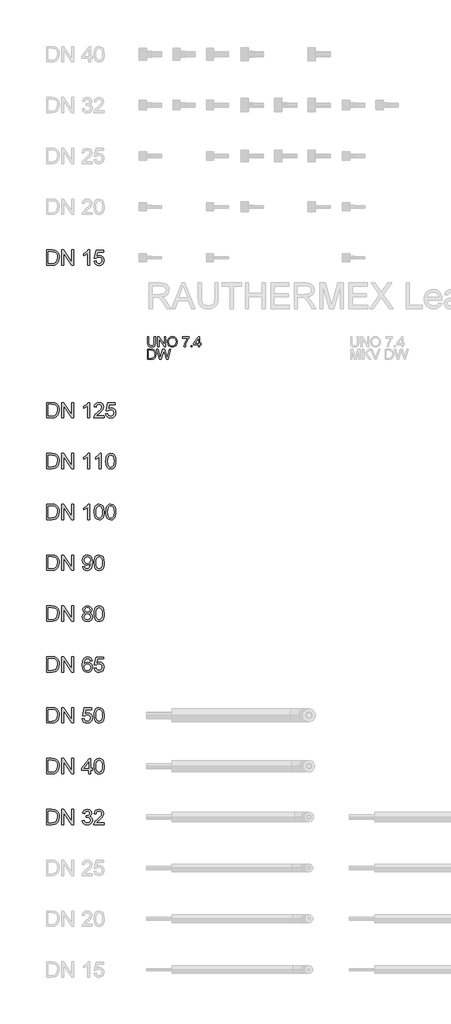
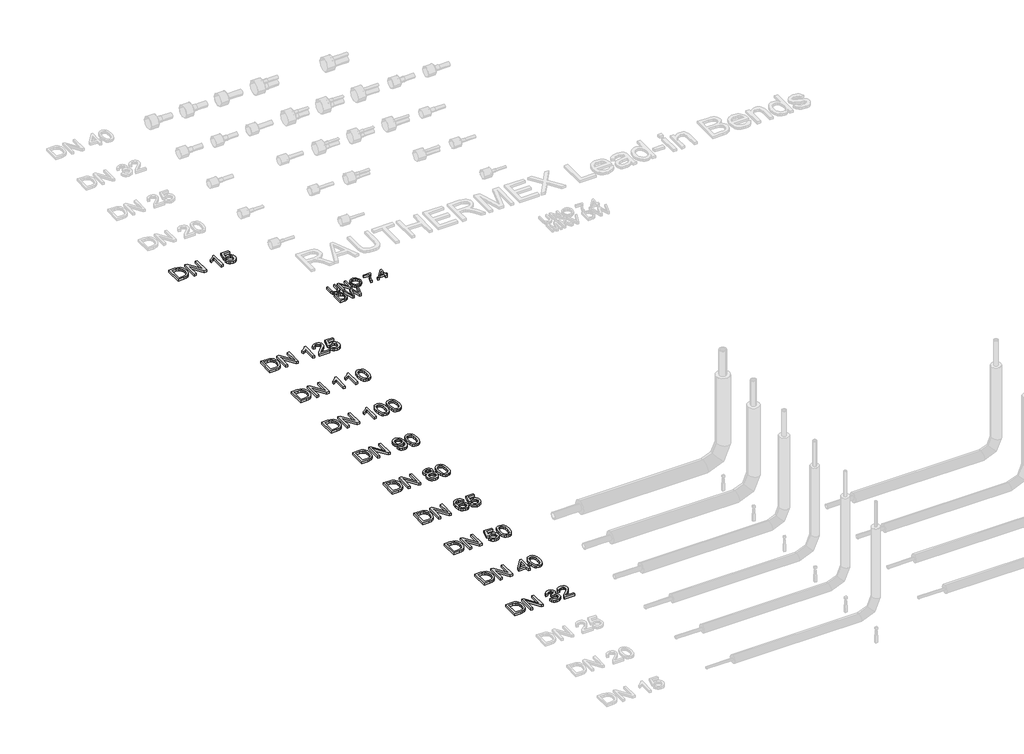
# One storey, part 9 of 44: 11 proxies.
"""IFC4 building model written with IfcOpenShell, lengths in millimetres."""

from ifc_helpers import new_model, si_unit, origin, origin_with_axes, place, context, project, spatial, polyline, outline, extrude, element, save

model = new_model("IFC4")

# Units and contexts
model_context = context("Model", 3, world=origin())
ifc_project = project(units=[si_unit("LENGTHUNIT", "METRE", prefix="MILLI")], contexts=[model_context])

# Site, building, storey
site = spatial("IfcSite", under=ifc_project)
building = spatial("IfcBuilding", under=site)
storey = spatial("IfcBuildingStorey", under=building, Name="REHAU Starting view", Elevation=0.0)

# Proxies
placement = place(None, origin())
element("IfcBuildingElementProxy", 1, Name="100", ObjectType="100", at=placement, inside=storey, context=model_context, shape_type="SweptSolid", body=[
    extrude(outline(polyline([(1076.9118625, 6222.431128), (1089.4689012, 6222.431128), (1089.4689012, 6164.477451), (1086.0598614, 6140.4547567), (1073.7726028, 6125.9847316), (1063.5086951, 6121.8000739), (1050.4734097, 6120.405188), (1027.529836, 6125.2612303), (1019.8901532, 6131.2055902), (1014.8011189, 6139.3265853), (1010.9874089, 6164.477451), (1010.9874089, 6222.431128), (1023.5444477, 6222.431128), (1023.5444477, 6164.9189094), (1026.0215198, 6145.7767829), (1034.5318566, 6136.2976902), (1049.2961874, 6132.9622268), (1062.067824, 6134.6115644), (1070.5597667, 6139.5595772), (1075.3238385, 6149.1980855), (1076.9118625, 6164.9189094), (1076.9118625, 6222.431128)])), origin_with_axes(), (0.0, 0.0, 1.0), 20.0),
    extrude(outline(polyline([(1111.4437191, 6121.9748178), (1111.4437191, 6222.431128), (1124.8836746, 6222.431128), (1177.3681726, 6142.8459897), (1177.3681726, 6222.431128), (1189.9252114, 6222.431128), (1189.9252114, 6121.9748178), (1176.4852558, 6121.9748178), (1124.0007578, 6201.5844816), (1124.0007578, 6121.9748178), (1111.4437191, 6121.9748178)])), origin_with_axes(), (0.0, 0.0, 1.0), 20.0),
    extrude(outline(polyline([(1207.1911397, 6170.8785977), (1210.5388658, 6193.0925389), (1220.5820443, 6209.8986147), (1235.9165921, 6220.4752221), (1255.1384264, 6224.0007578), (1268.3147332, 6222.3452889), (1280.1298766, 6217.3788819), (1289.9400631, 6209.4510249), (1297.1014993, 6198.9112058), (1301.479295, 6186.2683279), (1302.9385603, 6172.0312947), (1301.402653, 6157.6041891), (1296.794931, 6144.7835015), (1289.369846, 6134.2252883), (1279.3818499, 6126.5856055), (1267.667874, 6121.9502924), (1255.06485, 6120.405188), (1241.6862081, 6122.1127736), (1229.8036197, 6127.2355304), (1220.0179586, 6135.3105402), (1212.9300988, 6145.8748848), (1207.1911397, 6170.8785977)]), holes=[polyline([(1219.7481785, 6170.7559704), (1222.2589731, 6155.0412778), (1229.7913569, 6143.0667189), (1241.1129253, 6135.4883498), (1254.9912736, 6132.9622268), (1269.071957, 6135.5128753), (1280.4119195, 6143.1648208), (1287.889121, 6155.5072617), (1290.3815215, 6172.1293965), (1286.1140904, 6192.8534156), (1273.6428907, 6206.575414), (1255.2120028, 6211.4437191), (1241.7046022, 6209.0984714), (1230.2205526, 6202.0627282), (1222.366272, 6189.5455433), (1219.7481785, 6170.7559704)])]), origin_with_axes(), (0.0, 0.0, 1.0), 20.0),
    extrude(outline(polyline([(1354.7363452, 6208.3044594), (1354.7363452, 6220.8614981), (1420.6607988, 6220.8614981), (1420.6607988, 6210.7079551), (1401.9601307, 6183.6931539), (1387.6495211, 6149.2716619), (1382.9896824, 6121.9748178), (1370.4326437, 6121.9748178), (1375.4235761, 6150.3017315), (1389.121049, 6182.3197278), (1408.10376, 6208.3044594), (1354.7363452, 6208.3044594)])), origin_with_axes(), (0.0, 0.0, 1.0), 20.0),
    extrude(outline(polyline([(1437.9267271, 6121.9748178), (1437.9267271, 6134.5318566), (1450.4837658, 6134.5318566), (1450.4837658, 6121.9748178), (1437.9267271, 6121.9748178)])), origin_with_axes(), (0.0, 0.0, 1.0), 20.0),
    extrude(outline(polyline([(1511.6993298, 6121.9748178), (1511.6993298, 6145.5192655), (1466.1800643, 6145.5192655), (1466.1800643, 6158.0763043), (1514.8385895, 6220.8614981), (1524.2563686, 6220.8614981), (1524.2563686, 6158.0763043), (1536.8134074, 6158.0763043), (1536.8134074, 6145.5192655), (1524.2563686, 6145.5192655), (1524.2563686, 6121.9748178), (1511.6993298, 6121.9748178)]), holes=[polyline([(1511.6993298, 6158.0763043), (1511.6993298, 6196.8755921), (1481.6311081, 6158.0763043), (1511.6993298, 6158.0763043)])]), origin_with_axes(), (0.0, 0.0, 1.0), 20.0),
    extrude(outline(polyline([(1010.9874089, 6000.0), (1010.9874089, 6100.4563101), (1045.6418929, 6100.4563101), (1063.5700088, 6099.0093076), (1078.3343395, 6091.823346), (1090.2291907, 6074.6555196), (1094.1777908, 6050.7677153), (1091.5045149, 6030.4974174), (1084.6373844, 6015.8679767), (1075.4648599, 6006.756766), (1063.4596442, 6001.7167826), (1047.3096246, 6000.0), (1010.9874089, 6000.0)]), holes=[polyline([(1023.5444477, 6012.5570388), (1045.7645202, 6012.5570388), (1061.9268025, 6014.3719233), (1071.2464797, 6019.4977457), (1078.8861625, 6031.9689454), (1081.620752, 6050.9639191), (1080.2810484, 6064.6491293), (1076.2619376, 6074.7536214), (1063.2266522, 6085.8881831), (1045.4211637, 6087.8992714), (1023.5444477, 6087.8992714), (1023.5444477, 6012.5570388)])]), origin_with_axes(), (0.0, 0.0, 1.0), 20.0),
    extrude(outline(polyline([(1129.4208859, 6000.0), (1102.02594, 6100.4563101), (1114.9753862, 6100.4563101), (1130.8678884, 6034.4337547), (1135.7729817, 6014.0530922), (1141.0214315, 6032.07931), (1160.9361102, 6100.4563101), (1179.59999, 6100.4563101), (1194.0700152, 6050.8903427), (1204.8366949, 6014.0530922), (1209.5946354, 6033.8451436), (1225.6342904, 6100.4563101), (1238.5837366, 6100.4563101), (1211.1642652, 6000.0), (1197.7488351, 6000.0), (1173.6648272, 6077.5004737), (1170.3048383, 6088.3162043), (1166.5279165, 6075.2931817), (1144.5776241, 6000.0), (1129.4208859, 6000.0)])), origin_with_axes(), (0.0, 0.0, 1.0), 20.0),
])
element("IfcBuildingElementProxy", 2, Name="150", ObjectType="150", at=placement, inside=storey, context=model_context, shape_type="SweptSolid", body=[
    extrude(outline(polyline([(16.4811134, 6925.0), (16.4811134, 7075.6844652), (68.4628393, 7075.6844652), (95.3550131, 7073.5139615), (117.5015093, 7062.735019), (127.9217668, 7051.2571007), (135.343786, 7036.9832793), (139.7859611, 7020.1894663), (141.2666861, 7001.151573), (137.2567724, 6970.7461261), (126.9560765, 6948.8019651), (113.1972899, 6935.135149), (95.1894663, 6927.575174), (70.9644369, 6925.0), (16.4811134, 6925.0)]), holes=[polyline([(35.3166715, 6943.8355582), (68.6467803, 6943.8355582), (92.8902038, 6946.5578849), (106.8697196, 6954.2466186), (118.3292437, 6972.9534181), (122.431128, 7001.4458786), (120.4215726, 7021.9736939), (114.3929064, 7037.1304321), (105.4855636, 7047.5414926), (94.8399784, 7053.8322747), (68.1317455, 7056.8489071), (35.3166715, 7056.8489071), (35.3166715, 6943.8355582)])]), origin_with_axes(), (0.0, 0.0, 1.0), 20.0),
    extrude(outline(polyline([(167.1655786, 6925.0), (167.1655786, 7075.6844652), (187.3255119, 7075.6844652), (266.0522589, 6956.3067578), (266.0522589, 7075.6844652), (284.8878171, 7075.6844652), (284.8878171, 6925.0), (264.7278837, 6925.0), (186.0011368, 7044.4144956), (186.0011368, 6925.0), (167.1655786, 6925.0)])), origin_with_axes(), (0.0, 0.0, 1.0), 20.0),
    extrude(outline(polyline([(440.2811718, 6925.0), (421.4456137, 6925.0), (421.4456137, 7042.4279329), (403.6033369, 7029.7176099), (383.7744974, 7020.2078604), (383.7744974, 7038.0133489), (411.3840411, 7055.6348965), (428.141066, 7075.6844652), (440.2811718, 7075.6844652), (440.2811718, 6925.0)])), origin_with_axes(), (0.0, 0.0, 1.0), 20.0),
    extrude(outline(polyline([(485.0156224, 6965.0255611), (503.8511806, 6967.3800058), (507.3092713, 6956.072233), (513.3425361, 6947.9742306), (521.9233836, 6943.1043927), (533.0242228, 6941.4811134), (546.525492, 6943.7389891), (556.6422469, 6950.5126164), (562.9606202, 6961.0202459), (565.0667446, 6974.4801284), (563.0939774, 6987.1536631), (557.1756758, 6996.8473537), (547.2658545, 7003.00018), (533.3185284, 7005.0511222), (516.7822327, 7001.7769724), (506.2056254, 6993.2788983), (487.3700672, 6995.6333431), (503.8511806, 7073.3300205), (576.8389684, 7073.3300205), (576.8389684, 7054.4944623), (519.0814952, 7054.4944623), (511.0248795, 7012.9973732), (524.4801635, 7021.1643535), (538.5792409, 7023.8866803), (556.1777959, 7020.511363), (570.7873096, 7010.3854111), (580.6235545, 6994.9527614), (583.9023027, 6975.6573507), (580.9500497, 6956.8217926), (572.0932907, 6940.7085612), (555.1339307, 6927.1613067), (532.9506464, 6922.6455552), (514.4507806, 6925.5472245), (499.7125081, 6934.2522322), (489.6095489, 6947.7489029), (485.0156224, 6965.0255611)])), origin_with_axes(), (0.0, 0.0, 1.0), 20.0),
])
element("IfcBuildingElementProxy", 3, Name="150", ObjectType="150", at=placement, inside=storey, context=model_context, shape_type="SweptSolid", body=[
    extrude(outline(polyline([(16.4811134, 1425.0), (16.4811134, 1575.6844652), (68.4628393, 1575.6844652), (95.3550131, 1573.5139615), (117.5015093, 1562.735019), (127.9217668, 1551.2571007), (135.343786, 1536.9832793), (139.7859611, 1520.1894663), (141.2666861, 1501.151573), (137.2567724, 1470.7461261), (126.9560765, 1448.8019651), (113.1972899, 1435.135149), (95.1894663, 1427.575174), (70.9644369, 1425.0), (16.4811134, 1425.0)]), holes=[polyline([(35.3166715, 1443.8355582), (68.6467803, 1443.8355582), (92.8902038, 1446.5578849), (106.8697196, 1454.2466186), (118.3292437, 1472.9534181), (122.431128, 1501.4458786), (120.4215726, 1521.9736939), (114.3929064, 1537.1304321), (105.4855636, 1547.5414926), (94.8399784, 1553.8322747), (68.1317455, 1556.8489071), (35.3166715, 1556.8489071), (35.3166715, 1443.8355582)])]), origin_with_axes(), (0.0, 0.0, 1.0), 20.0),
    extrude(outline(polyline([(167.1655786, 1425.0), (167.1655786, 1575.6844652), (187.3255119, 1575.6844652), (266.0522589, 1456.3067578), (266.0522589, 1575.6844652), (284.8878171, 1575.6844652), (284.8878171, 1425.0), (264.7278837, 1425.0), (186.0011368, 1544.4144956), (186.0011368, 1425.0), (167.1655786, 1425.0)])), origin_with_axes(), (0.0, 0.0, 1.0), 20.0),
    extrude(outline(polyline([(369.6478288, 1465.0255611), (388.4833869, 1467.3800058), (392.7002343, 1455.5434026), (398.8760533, 1447.5511663), (407.3143465, 1442.9986266), (418.3186167, 1441.4811134), (431.2312747, 1443.5688437), (441.2008768, 1449.8320347), (447.5744324, 1459.1762374), (449.6989509, 1470.5070028), (447.5928265, 1481.2629526), (441.2744532, 1489.9863544), (431.7095213, 1495.7667003), (419.8637211, 1497.6934822), (406.6567575, 1495.6333431), (408.7536848, 1514.4689012), (411.7703172, 1514.248172), (433.1442611, 1519.6560374), (440.2627777, 1526.5170366), (442.6356166, 1536.2843035), (440.9157683, 1544.4190942), (435.7562233, 1551.0179774), (427.8835486, 1555.3911747), (418.0243111, 1556.8489071), (408.1466795, 1555.3773791), (400.0716698, 1550.9627951), (394.1763608, 1543.6051552), (390.8378317, 1533.3044594), (372.0022735, 1535.6589041), (377.5480946, 1552.5722789), (387.4165291, 1565.1998284), (400.9177983, 1573.063306), (417.3621235, 1575.6844652), (440.0788367, 1570.5157232), (455.9713389, 1556.3890546), (461.4711747, 1537.3879495), (456.2472504, 1520.0239194), (440.7962066, 1507.5527197), (452.5868246, 1502.7886479), (461.324022, 1494.6768499), (466.7318873, 1483.6587841), (468.5345091, 1470.175909), (464.9292655, 1451.8185974), (454.1135348, 1436.4779182), (437.7887713, 1426.103646), (417.6564291, 1422.6455552), (399.4462704, 1425.5978082), (384.620626, 1434.4545673), (374.310733, 1448.0018217), (369.6478288, 1465.0255611)])), origin_with_axes(), (0.0, 0.0, 1.0), 20.0),
    extrude(outline(polyline([(581.547858, 1443.8355582), (581.547858, 1425.0), (482.6611777, 1425.0), (484.6845286, 1437.9862344), (496.1256587, 1457.9806209), (519.7068946, 1479.8144173), (552.227663, 1511.1947515), (558.325307, 1522.0104821), (560.3578551, 1532.5319072), (558.4402702, 1541.9634818), (552.6875155, 1549.8039669), (543.844552, 1555.087672), (532.6563408, 1556.8489071), (520.9071096, 1555.1290587), (511.7790376, 1549.9695138), (505.8883271, 1541.7749423), (503.8511806, 1530.9500146), (485.0156224, 1533.3044594), (489.5819577, 1551.5238152), (499.4549908, 1564.8319464), (514.1196868, 1572.9713355), (533.061011, 1575.6844652), (552.140291, 1572.6678329), (566.7773959, 1563.6179358), (576.0894089, 1550.0982725), (579.1934132, 1533.6723414), (575.8456871, 1515.8116705), (564.7172567, 1497.3439944), (537.7331123, 1471.5370724), (516.0648628, 1453.4188841), (507.5667887, 1443.8355582), (581.547858, 1443.8355582)])), origin_with_axes(), (0.0, 0.0, 1.0), 20.0),
])
element("IfcBuildingElementProxy", 4, Name="150", ObjectType="150", at=placement, inside=storey, context=model_context, shape_type="SweptSolid", body=[
    extrude(outline(polyline([(16.4811134, 1925.0), (16.4811134, 2075.6844652), (68.4628393, 2075.6844652), (95.3550131, 2073.5139615), (117.5015093, 2062.735019), (127.9217668, 2051.2571007), (135.343786, 2036.9832793), (139.7859611, 2020.1894663), (141.2666861, 2001.151573), (137.2567724, 1970.7461261), (126.9560765, 1948.8019651), (113.1972899, 1935.135149), (95.1894663, 1927.575174), (70.9644369, 1925.0), (16.4811134, 1925.0)]), holes=[polyline([(35.3166715, 1943.8355582), (68.6467803, 1943.8355582), (92.8902038, 1946.5578849), (106.8697196, 1954.2466186), (118.3292437, 1972.9534181), (122.431128, 2001.4458786), (120.4215726, 2021.9736939), (114.3929064, 2037.1304321), (105.4855636, 2047.5414926), (94.8399784, 2053.8322747), (68.1317455, 2056.8489071), (35.3166715, 2056.8489071), (35.3166715, 1943.8355582)])]), origin_with_axes(), (0.0, 0.0, 1.0), 20.0),
    extrude(outline(polyline([(167.1655786, 1925.0), (167.1655786, 2075.6844652), (187.3255119, 2075.6844652), (266.0522589, 1956.3067578), (266.0522589, 2075.6844652), (284.8878171, 2075.6844652), (284.8878171, 1925.0), (264.7278837, 1925.0), (186.0011368, 2044.4144956), (186.0011368, 1925.0), (167.1655786, 1925.0)])), origin_with_axes(), (0.0, 0.0, 1.0), 20.0),
    extrude(outline(polyline([(430.8633928, 1925.0), (430.8633928, 1960.3166715), (362.5844944, 1960.3166715), (362.5844944, 1979.1522297), (435.5722823, 2073.3300205), (449.6989509, 2073.3300205), (449.6989509, 1979.1522297), (468.5345091, 1979.1522297), (468.5345091, 1960.3166715), (449.6989509, 1960.3166715), (449.6989509, 1925.0), (430.8633928, 1925.0)]), holes=[polyline([(430.8633928, 1979.1522297), (430.8633928, 2037.3511613), (385.7610601, 1979.1522297), (430.8633928, 1979.1522297)])]), origin_with_axes(), (0.0, 0.0, 1.0), 20.0),
    extrude(outline(polyline([(485.0156224, 1999.128222), (486.3997784, 2023.2474853), (490.5522465, 2042.4831152), (497.4316398, 2057.1294171), (506.9965717, 2067.4806967), (519.31602, 2073.6335231), (534.4589626, 2075.6844652), (556.4583059, 2070.8284229), (571.6518323, 2056.830513), (580.4810002, 2034.5368641), (583.9023027, 1999.128222), (582.5319423, 1975.1469145), (578.420861, 1955.9572699), (571.5828544, 1941.2971724), (562.0317181, 1930.904506), (549.6846787, 1924.7102929), (534.4589626, 1922.6455552), (514.8876404, 1926.2324047), (500.0252078, 1936.992953), (488.7680188, 1962.4779783), (485.0156224, 1999.128222)]), holes=[polyline([(503.8511806, 1999.1650102), (506.0584726, 1969.536714), (512.6803485, 1952.3888145), (522.5395859, 1944.2080387), (534.4589626, 1941.4811134), (546.3783392, 1944.2172357), (556.2375767, 1952.4256027), (562.8594526, 1969.5826993), (565.0667446, 1999.1650102), (562.933029, 2028.1265203), (556.5318823, 2045.407777), (546.6910389, 2053.9886246), (534.2382334, 2056.8489071), (522.4476155, 2054.3289154), (512.9746541, 2046.7689404), (506.132049, 2028.4116288), (503.8511806, 1999.1650102)])]), origin_with_axes(), (0.0, 0.0, 1.0), 20.0),
])
element("IfcBuildingElementProxy", 5, Name="150", ObjectType="150", at=placement, inside=storey, context=model_context, shape_type="SweptSolid", body=[
    extrude(outline(polyline([(16.4811134, 2425.0), (16.4811134, 2575.6844652), (68.4628393, 2575.6844652), (95.3550131, 2573.5139615), (117.5015093, 2562.735019), (127.9217668, 2551.2571007), (135.343786, 2536.9832793), (139.7859611, 2520.1894663), (141.2666861, 2501.151573), (137.2567724, 2470.7461261), (126.9560765, 2448.8019651), (113.1972899, 2435.135149), (95.1894663, 2427.575174), (70.9644369, 2425.0), (16.4811134, 2425.0)]), holes=[polyline([(35.3166715, 2443.8355582), (68.6467803, 2443.8355582), (92.8902038, 2446.5578849), (106.8697196, 2454.2466186), (118.3292437, 2472.9534181), (122.431128, 2501.4458786), (120.4215726, 2521.9736939), (114.3929064, 2537.1304321), (105.4855636, 2547.5414926), (94.8399784, 2553.8322747), (68.1317455, 2556.8489071), (35.3166715, 2556.8489071), (35.3166715, 2443.8355582)])]), origin_with_axes(), (0.0, 0.0, 1.0), 20.0),
    extrude(outline(polyline([(167.1655786, 2425.0), (167.1655786, 2575.6844652), (187.3255119, 2575.6844652), (266.0522589, 2456.3067578), (266.0522589, 2575.6844652), (284.8878171, 2575.6844652), (284.8878171, 2425.0), (264.7278837, 2425.0), (186.0011368, 2544.4144956), (186.0011368, 2425.0), (167.1655786, 2425.0)])), origin_with_axes(), (0.0, 0.0, 1.0), 20.0),
    extrude(outline(polyline([(369.6478288, 2465.0255611), (388.4833869, 2467.3800058), (391.9414777, 2456.072233), (397.9747424, 2447.9742306), (406.5555899, 2443.1043927), (417.6564291, 2441.4811134), (431.1576983, 2443.7389891), (441.2744532, 2450.5126164), (447.5928265, 2461.0202459), (449.6989509, 2474.4801284), (447.7261837, 2487.1536631), (441.8078821, 2496.8473537), (431.8980609, 2503.00018), (417.9507347, 2505.0511222), (401.414439, 2501.7769724), (390.8378317, 2493.2788983), (372.0022735, 2495.6333431), (388.4833869, 2573.3300205), (461.4711747, 2573.3300205), (461.4711747, 2554.4944623), (403.7137015, 2554.4944623), (395.6570858, 2512.9973732), (409.1123698, 2521.1643535), (423.2114473, 2523.8866803), (440.8100022, 2520.511363), (455.4195159, 2510.3854111), (465.2557608, 2494.9527614), (468.5345091, 2475.6573507), (465.582256, 2456.8217926), (456.725497, 2440.7085612), (439.766137, 2427.1613067), (417.5828527, 2422.6455552), (399.0829869, 2425.5472245), (384.3447145, 2434.2522322), (374.2417552, 2447.7489029), (369.6478288, 2465.0255611)])), origin_with_axes(), (0.0, 0.0, 1.0), 20.0),
    extrude(outline(polyline([(485.0156224, 2499.128222), (486.3997784, 2523.2474853), (490.5522465, 2542.4831152), (497.4316398, 2557.1294171), (506.9965717, 2567.4806967), (519.31602, 2573.6335231), (534.4589626, 2575.6844652), (556.4583059, 2570.8284229), (571.6518323, 2556.830513), (580.4810002, 2534.5368641), (583.9023027, 2499.128222), (582.5319423, 2475.1469145), (578.420861, 2455.9572699), (571.5828544, 2441.2971724), (562.0317181, 2430.904506), (549.6846787, 2424.7102929), (534.4589626, 2422.6455552), (514.8876404, 2426.2324047), (500.0252078, 2436.992953), (488.7680188, 2462.4779783), (485.0156224, 2499.128222)]), holes=[polyline([(503.8511806, 2499.1650102), (506.0584726, 2469.536714), (512.6803485, 2452.3888145), (522.5395859, 2444.2080387), (534.4589626, 2441.4811134), (546.3783392, 2444.2172357), (556.2375767, 2452.4256027), (562.8594526, 2469.5826993), (565.0667446, 2499.1650102), (562.933029, 2528.1265203), (556.5318823, 2545.407777), (546.6910389, 2553.9886246), (534.2382334, 2556.8489071), (522.4476155, 2554.3289154), (512.9746541, 2546.7689404), (506.132049, 2528.4116288), (503.8511806, 2499.1650102)])]), origin_with_axes(), (0.0, 0.0, 1.0), 20.0),
])
element("IfcBuildingElementProxy", 6, Name="150", ObjectType="150", at=placement, inside=storey, context=model_context, shape_type="SweptSolid", body=[
    extrude(outline(polyline([(16.4811134, 2925.0), (16.4811134, 3075.6844652), (68.4628393, 3075.6844652), (95.3550131, 3073.5139615), (117.5015093, 3062.735019), (127.9217668, 3051.2571007), (135.343786, 3036.9832793), (139.7859611, 3020.1894663), (141.2666861, 3001.151573), (137.2567724, 2970.7461261), (126.9560765, 2948.8019651), (113.1972899, 2935.135149), (95.1894663, 2927.575174), (70.9644369, 2925.0), (16.4811134, 2925.0)]), holes=[polyline([(35.3166715, 2943.8355582), (68.6467803, 2943.8355582), (92.8902038, 2946.5578849), (106.8697196, 2954.2466186), (118.3292437, 2972.9534181), (122.431128, 3001.4458786), (120.4215726, 3021.9736939), (114.3929064, 3037.1304321), (105.4855636, 3047.5414926), (94.8399784, 3053.8322747), (68.1317455, 3056.8489071), (35.3166715, 3056.8489071), (35.3166715, 2943.8355582)])]), origin_with_axes(), (0.0, 0.0, 1.0), 20.0),
    extrude(outline(polyline([(167.1655786, 2925.0), (167.1655786, 3075.6844652), (187.3255119, 3075.6844652), (266.0522589, 2956.3067578), (266.0522589, 3075.6844652), (284.8878171, 3075.6844652), (284.8878171, 2925.0), (264.7278837, 2925.0), (186.0011368, 3044.4144956), (186.0011368, 2925.0), (167.1655786, 2925.0)])), origin_with_axes(), (0.0, 0.0, 1.0), 20.0),
    extrude(outline(polyline([(466.1800643, 3035.6589041), (447.3445061, 3033.3044594), (440.2075954, 3049.0130206), (431.6635361, 3054.8899354), (421.3352491, 3056.8489071), (404.3391009, 3052.2871703), (391.4816252, 3035.1622635), (387.5774775, 3021.1321639), (386.1289421, 3001.5930314), (402.7388142, 3016.6210109), (423.3218118, 3021.5322355), (440.7226302, 3018.1753123), (455.3275454, 3008.1045427), (465.2327682, 2992.7178783), (468.5345091, 2973.4132706), (466.9802076, 2959.9257969), (462.3173033, 2947.4224076), (454.9320723, 2936.8182091), (445.2107906, 2929.0283078), (433.5949166, 2924.2412434), (420.5259087, 2922.6455552), (399.1565633, 2926.8761982), (382.1374225, 2939.568127), (371.0043936, 2961.9721405), (367.293384, 2995.3390375), (371.4136623, 3032.8538039), (383.7744974, 3058.504376), (400.6510839, 3071.3894429), (422.5124715, 3075.6844652), (439.0395701, 3073.0265178), (452.2741249, 3065.0526756), (461.5447511, 3052.3883379), (466.1800643, 3035.6589041)]), holes=[polyline([(386.1289421, 2973.7075762), (390.4883438, 2957.3920097), (402.0766266, 2945.5462094), (419.0543807, 2941.4811134), (431.4841936, 2943.5872378), (441.2560591, 2949.9056111), (447.588228, 2959.8384249), (449.6989509, 2972.7878712), (447.6158191, 2985.2176841), (441.3664237, 2994.695244), (431.4290113, 3000.696319), (418.2818285, 3002.6966774), (405.8704097, 3000.696319), (395.4915389, 2994.695244), (388.4695913, 2985.4476103), (386.1289421, 2973.7075762)])]), origin_with_axes(), (0.0, 0.0, 1.0), 20.0),
    extrude(outline(polyline([(485.0156224, 2965.0255611), (503.8511806, 2967.3800058), (507.3092713, 2956.072233), (513.3425361, 2947.9742306), (521.9233836, 2943.1043927), (533.0242228, 2941.4811134), (546.525492, 2943.7389891), (556.6422469, 2950.5126164), (562.9606202, 2961.0202459), (565.0667446, 2974.4801284), (563.0939774, 2987.1536631), (557.1756758, 2996.8473537), (547.2658545, 3003.00018), (533.3185284, 3005.0511222), (516.7822327, 3001.7769724), (506.2056254, 2993.2788983), (487.3700672, 2995.6333431), (503.8511806, 3073.3300205), (576.8389684, 3073.3300205), (576.8389684, 3054.4944623), (519.0814952, 3054.4944623), (511.0248795, 3012.9973732), (524.4801635, 3021.1643535), (538.5792409, 3023.8866803), (556.1777959, 3020.511363), (570.7873096, 3010.3854111), (580.6235545, 2994.9527614), (583.9023027, 2975.6573507), (580.9500497, 2956.8217926), (572.0932907, 2940.7085612), (555.1339307, 2927.1613067), (532.9506464, 2922.6455552), (514.4507806, 2925.5472245), (499.7125081, 2934.2522322), (489.6095489, 2947.7489029), (485.0156224, 2965.0255611)])), origin_with_axes(), (0.0, 0.0, 1.0), 20.0),
])
element("IfcBuildingElementProxy", 7, Name="150", ObjectType="150", at=placement, inside=storey, context=model_context, shape_type="SweptSolid", body=[
    extrude(outline(polyline([(16.4811134, 3425.0), (16.4811134, 3575.6844652), (68.4628393, 3575.6844652), (95.3550131, 3573.5139615), (117.5015093, 3562.735019), (127.9217668, 3551.2571007), (135.343786, 3536.9832793), (139.7859611, 3520.1894663), (141.2666861, 3501.151573), (137.2567724, 3470.7461261), (126.9560765, 3448.8019651), (113.1972899, 3435.135149), (95.1894663, 3427.575174), (70.9644369, 3425.0), (16.4811134, 3425.0)]), holes=[polyline([(35.3166715, 3443.8355582), (68.6467803, 3443.8355582), (92.8902038, 3446.5578849), (106.8697196, 3454.2466186), (118.3292437, 3472.9534181), (122.431128, 3501.4458786), (120.4215726, 3521.9736939), (114.3929064, 3537.1304321), (105.4855636, 3547.5414926), (94.8399784, 3553.8322747), (68.1317455, 3556.8489071), (35.3166715, 3556.8489071), (35.3166715, 3443.8355582)])]), origin_with_axes(), (0.0, 0.0, 1.0), 20.0),
    extrude(outline(polyline([(167.1655786, 3425.0), (167.1655786, 3575.6844652), (187.3255119, 3575.6844652), (266.0522589, 3456.3067578), (266.0522589, 3575.6844652), (284.8878171, 3575.6844652), (284.8878171, 3425.0), (264.7278837, 3425.0), (186.0011368, 3544.4144956), (186.0011368, 3425.0), (167.1655786, 3425.0)])), origin_with_axes(), (0.0, 0.0, 1.0), 20.0),
    extrude(outline(polyline([(397.0918256, 3507.9941781), (379.9301305, 3519.6928256), (374.3567183, 3537.9029843), (377.3917448, 3552.6274612), (386.4968241, 3564.7951582), (400.6510839, 3572.9621385), (418.8336515, 3575.6844652), (437.1265837, 3572.8977591), (451.4647845, 3564.5376408), (460.7354108, 3552.1768057), (463.8256195, 3537.3879495), (458.3257837, 3519.6376433), (441.6423352, 3507.9941781), (453.2352166, 3502.0206942), (461.6735098, 3493.223716), (466.8192593, 3482.0263078), (468.5345091, 3468.8515338), (465.1316006, 3450.8437102), (454.9228752, 3435.9628835), (439.1591317, 3425.9748873), (419.0911689, 3422.6455552), (399.0232061, 3425.9886829), (383.2594626, 3436.0180658), (373.0507372, 3451.0414467), (369.6478288, 3469.3665686), (371.4320564, 3483.0517788), (376.7847395, 3494.3089679), (385.4299663, 3502.7518597), (397.0918256, 3507.9941781)]), holes=[polyline([(393.1922764, 3537.3511613), (394.861541, 3529.1289987), (399.8693347, 3522.5623051), (408.0685046, 3518.2580858), (419.3118981, 3516.823346), (430.2931757, 3518.2488887), (438.3681855, 3522.5255169), (443.3345924, 3528.8714813), (444.9900614, 3536.5050327), (443.2794101, 3544.4282912), (438.1474563, 3550.9811892), (429.9620819, 3555.3819776), (419.0911689, 3556.8489071), (408.1512781, 3555.4141673), (399.9796993, 3551.1099479), (394.8891321, 3544.8007717), (393.1922764, 3537.3511613)]), polyline([(388.4833869, 3470.0287562), (391.628778, 3455.8469053), (402.7572083, 3445.2335097), (419.2383217, 3441.4811134), (432.0590092, 3443.4538806), (441.6791234, 3449.3721822), (447.693994, 3458.3347073), (449.6989509, 3469.440145), (447.6296147, 3480.7341223), (441.421606, 3489.8943839), (431.5807626, 3495.9644369), (418.6129223, 3497.9877878), (405.9715773, 3495.992028), (396.4480321, 3490.0047485), (390.4745482, 3481.0192308), (388.4833869, 3470.0287562)])]), origin_with_axes(), (0.0, 0.0, 1.0), 20.0),
    extrude(outline(polyline([(485.0156224, 3499.128222), (486.3997784, 3523.2474853), (490.5522465, 3542.4831152), (497.4316398, 3557.1294171), (506.9965717, 3567.4806967), (519.31602, 3573.6335231), (534.4589626, 3575.6844652), (556.4583059, 3570.8284229), (571.6518323, 3556.830513), (580.4810002, 3534.5368641), (583.9023027, 3499.128222), (582.5319423, 3475.1469145), (578.420861, 3455.9572699), (571.5828544, 3441.2971724), (562.0317181, 3430.904506), (549.6846787, 3424.7102929), (534.4589626, 3422.6455552), (514.8876404, 3426.2324047), (500.0252078, 3436.992953), (488.7680188, 3462.4779783), (485.0156224, 3499.128222)]), holes=[polyline([(503.8511806, 3499.1650102), (506.0584726, 3469.536714), (512.6803485, 3452.3888145), (522.5395859, 3444.2080387), (534.4589626, 3441.4811134), (546.3783392, 3444.2172357), (556.2375767, 3452.4256027), (562.8594526, 3469.5826993), (565.0667446, 3499.1650102), (562.933029, 3528.1265203), (556.5318823, 3545.407777), (546.6910389, 3553.9886246), (534.2382334, 3556.8489071), (522.4476155, 3554.3289154), (512.9746541, 3546.7689404), (506.132049, 3528.4116288), (503.8511806, 3499.1650102)])]), origin_with_axes(), (0.0, 0.0, 1.0), 20.0),
])
element("IfcBuildingElementProxy", 8, Name="150", ObjectType="150", at=placement, inside=storey, context=model_context, shape_type="SweptSolid", body=[
    extrude(outline(polyline([(16.4811134, 3925.0), (16.4811134, 4075.6844652), (68.4628393, 4075.6844652), (95.3550131, 4073.5139615), (117.5015093, 4062.735019), (127.9217668, 4051.2571007), (135.343786, 4036.9832793), (139.7859611, 4020.1894663), (141.2666861, 4001.151573), (137.2567724, 3970.7461261), (126.9560765, 3948.8019651), (113.1972899, 3935.135149), (95.1894663, 3927.575174), (70.9644369, 3925.0), (16.4811134, 3925.0)]), holes=[polyline([(35.3166715, 3943.8355582), (68.6467803, 3943.8355582), (92.8902038, 3946.5578849), (106.8697196, 3954.2466186), (118.3292437, 3972.9534181), (122.431128, 4001.4458786), (120.4215726, 4021.9736939), (114.3929064, 4037.1304321), (105.4855636, 4047.5414926), (94.8399784, 4053.8322747), (68.1317455, 4056.8489071), (35.3166715, 4056.8489071), (35.3166715, 3943.8355582)])]), origin_with_axes(), (0.0, 0.0, 1.0), 20.0),
    extrude(outline(polyline([(167.1655786, 3925.0), (167.1655786, 4075.6844652), (187.3255119, 4075.6844652), (266.0522589, 3956.3067578), (266.0522589, 4075.6844652), (284.8878171, 4075.6844652), (284.8878171, 3925.0), (264.7278837, 3925.0), (186.0011368, 4044.4144956), (186.0011368, 3925.0), (167.1655786, 3925.0)])), origin_with_axes(), (0.0, 0.0, 1.0), 20.0),
    extrude(outline(polyline([(372.0022735, 3962.6711163), (390.8378317, 3965.0255611), (394.0567991, 3954.3339906), (399.2991176, 3947.0545256), (406.4360283, 3942.8744664), (415.3387726, 3941.4811134), (430.5874813, 3945.0679628), (440.9249653, 3954.6512888), (447.0869887, 3971.0220376), (449.8093155, 3992.8742281), (449.6989509, 3996.5530481), (434.6341832, 3982.2792266), (413.9776092, 3976.7977849), (396.8021185, 3980.1455111), (382.5053045, 3990.1886895), (372.8621977, 4005.7041127), (369.6478288, 4025.4685729), (373.0185475, 4045.8860236), (383.1307039, 4061.8888904), (398.3196318, 4072.2355715), (416.9206651, 4075.6844652), (430.9691588, 4073.7162966), (443.7576567, 4067.8117905), (454.4538257, 4058.2652528), (462.2253328, 4045.3709888), (466.957215, 4027.5471062), (468.5345091, 4003.2117122), (466.9618135, 3977.4093887), (462.2437269, 3957.4655861), (454.421636, 3942.4789933), (443.5369275, 3931.5482995), (430.0586509, 3924.8712413), (414.4558558, 3922.6455552), (398.3518214, 3925.271313), (385.5035427, 3933.1485862), (376.518025, 3945.7807342), (372.0022735, 3962.6711163)]), holes=[polyline([(449.6989509, 4025.9100313), (447.6664029, 4038.6755365), (441.5687588, 4048.4979858), (432.1049945, 4054.7611767), (419.9740857, 4056.8489071), (407.3925215, 4054.6002284), (397.3125548, 4047.8541923), (390.6906789, 4037.5305038), (388.4833869, 4024.5488679), (390.5711172, 4012.9100013), (396.8343082, 4003.6715647), (406.6659545, 3997.6428985), (419.4590509, 3995.6333431), (431.4933907, 3997.6428985), (441.1824827, 4003.6715647), (447.5698339, 4013.2502921), (449.6989509, 4025.9100313)])]), origin_with_axes(), (0.0, 0.0, 1.0), 20.0),
    extrude(outline(polyline([(485.0156224, 3999.128222), (486.3997784, 4023.2474853), (490.5522465, 4042.4831152), (497.4316398, 4057.1294171), (506.9965717, 4067.4806967), (519.31602, 4073.6335231), (534.4589626, 4075.6844652), (556.4583059, 4070.8284229), (571.6518323, 4056.830513), (580.4810002, 4034.5368641), (583.9023027, 3999.128222), (582.5319423, 3975.1469145), (578.420861, 3955.9572699), (571.5828544, 3941.2971724), (562.0317181, 3930.904506), (549.6846787, 3924.7102929), (534.4589626, 3922.6455552), (514.8876404, 3926.2324047), (500.0252078, 3936.992953), (488.7680188, 3962.4779783), (485.0156224, 3999.128222)]), holes=[polyline([(503.8511806, 3999.1650102), (506.0584726, 3969.536714), (512.6803485, 3952.3888145), (522.5395859, 3944.2080387), (534.4589626, 3941.4811134), (546.3783392, 3944.2172357), (556.2375767, 3952.4256027), (562.8594526, 3969.5826993), (565.0667446, 3999.1650102), (562.933029, 4028.1265203), (556.5318823, 4045.407777), (546.6910389, 4053.9886246), (534.2382334, 4056.8489071), (522.4476155, 4054.3289154), (512.9746541, 4046.7689404), (506.132049, 4028.4116288), (503.8511806, 3999.1650102)])]), origin_with_axes(), (0.0, 0.0, 1.0), 20.0),
])
element("IfcBuildingElementProxy", 9, Name="150", ObjectType="150", at=placement, inside=storey, context=model_context, shape_type="SweptSolid", body=[
    extrude(outline(polyline([(16.4811134, 4425.0), (16.4811134, 4575.6844652), (68.4628393, 4575.6844652), (95.3550131, 4573.5139615), (117.5015093, 4562.735019), (127.9217668, 4551.2571007), (135.343786, 4536.9832793), (139.7859611, 4520.1894663), (141.2666861, 4501.151573), (137.2567724, 4470.7461261), (126.9560765, 4448.8019651), (113.1972899, 4435.135149), (95.1894663, 4427.575174), (70.9644369, 4425.0), (16.4811134, 4425.0)]), holes=[polyline([(35.3166715, 4443.8355582), (68.6467803, 4443.8355582), (92.8902038, 4446.5578849), (106.8697196, 4454.2466186), (118.3292437, 4472.9534181), (122.431128, 4501.4458786), (120.4215726, 4521.9736939), (114.3929064, 4537.1304321), (105.4855636, 4547.5414926), (94.8399784, 4553.8322747), (68.1317455, 4556.8489071), (35.3166715, 4556.8489071), (35.3166715, 4443.8355582)])]), origin_with_axes(), (0.0, 0.0, 1.0), 20.0),
    extrude(outline(polyline([(167.1655786, 4425.0), (167.1655786, 4575.6844652), (187.3255119, 4575.6844652), (266.0522589, 4456.3067578), (266.0522589, 4575.6844652), (284.8878171, 4575.6844652), (284.8878171, 4425.0), (264.7278837, 4425.0), (186.0011368, 4544.4144956), (186.0011368, 4425.0), (167.1655786, 4425.0)])), origin_with_axes(), (0.0, 0.0, 1.0), 20.0),
    extrude(outline(polyline([(440.2811718, 4425.0), (421.4456137, 4425.0), (421.4456137, 4542.4279329), (403.6033369, 4529.7176099), (383.7744974, 4520.2078604), (383.7744974, 4538.0133489), (411.3840411, 4555.6348965), (428.141066, 4575.6844652), (440.2811718, 4575.6844652), (440.2811718, 4425.0)])), origin_with_axes(), (0.0, 0.0, 1.0), 20.0),
    extrude(outline(polyline([(485.0156224, 4499.128222), (486.3997784, 4523.2474853), (490.5522465, 4542.4831152), (497.4316398, 4557.1294171), (506.9965717, 4567.4806967), (519.31602, 4573.6335231), (534.4589626, 4575.6844652), (556.4583059, 4570.8284229), (571.6518323, 4556.830513), (580.4810002, 4534.5368641), (583.9023027, 4499.128222), (582.5319423, 4475.1469145), (578.420861, 4455.9572699), (571.5828544, 4441.2971724), (562.0317181, 4430.904506), (549.6846787, 4424.7102929), (534.4589626, 4422.6455552), (514.8876404, 4426.2324047), (500.0252078, 4436.992953), (488.7680188, 4462.4779783), (485.0156224, 4499.128222)]), holes=[polyline([(503.8511806, 4499.1650102), (506.0584726, 4469.536714), (512.6803485, 4452.3888145), (522.5395859, 4444.2080387), (534.4589626, 4441.4811134), (546.3783392, 4444.2172357), (556.2375767, 4452.4256027), (562.8594526, 4469.5826993), (565.0667446, 4499.1650102), (562.933029, 4528.1265203), (556.5318823, 4545.407777), (546.6910389, 4553.9886246), (534.2382334, 4556.8489071), (522.4476155, 4554.3289154), (512.9746541, 4546.7689404), (506.132049, 4528.4116288), (503.8511806, 4499.1650102)])]), origin_with_axes(), (0.0, 0.0, 1.0), 20.0),
    extrude(outline(polyline([(600.3834161, 4499.128222), (601.7675721, 4523.2474853), (605.9200402, 4542.4831152), (612.7994335, 4557.1294171), (622.3643653, 4567.4806967), (634.6838137, 4573.6335231), (649.8267563, 4575.6844652), (671.8260996, 4570.8284229), (687.019626, 4556.830513), (695.8487939, 4534.5368641), (699.2700964, 4499.128222), (697.899736, 4475.1469145), (693.7886547, 4455.9572699), (686.9506481, 4441.2971724), (677.3995118, 4430.904506), (665.0524724, 4424.7102929), (649.8267563, 4422.6455552), (630.2554341, 4426.2324047), (615.3930015, 4436.992953), (604.1358125, 4462.4779783), (600.3834161, 4499.128222)]), holes=[polyline([(619.2189743, 4499.1650102), (621.4262663, 4469.536714), (628.0481422, 4452.3888145), (637.9073796, 4444.2080387), (649.8267563, 4441.4811134), (661.7461329, 4444.2172357), (671.6053704, 4452.4256027), (678.2272463, 4469.5826993), (680.4345383, 4499.1650102), (678.3008227, 4528.1265203), (671.899676, 4545.407777), (662.0588326, 4553.9886246), (649.6060271, 4556.8489071), (637.8154091, 4554.3289154), (628.3424478, 4546.7689404), (621.4998427, 4528.4116288), (619.2189743, 4499.1650102)])]), origin_with_axes(), (0.0, 0.0, 1.0), 20.0),
])
element("IfcBuildingElementProxy", 10, Name="150", ObjectType="150", at=placement, inside=storey, context=model_context, shape_type="SweptSolid", body=[
    extrude(outline(polyline([(16.4811134, 4925.0), (16.4811134, 5075.6844652), (68.4628393, 5075.6844652), (95.3550131, 5073.5139615), (117.5015093, 5062.735019), (127.9217668, 5051.2571007), (135.343786, 5036.9832793), (139.7859611, 5020.1894663), (141.2666861, 5001.151573), (137.2567724, 4970.7461261), (126.9560765, 4948.8019651), (113.1972899, 4935.135149), (95.1894663, 4927.575174), (70.9644369, 4925.0), (16.4811134, 4925.0)]), holes=[polyline([(35.3166715, 4943.8355582), (68.6467803, 4943.8355582), (92.8902038, 4946.5578849), (106.8697196, 4954.2466186), (118.3292437, 4972.9534181), (122.431128, 5001.4458786), (120.4215726, 5021.9736939), (114.3929064, 5037.1304321), (105.4855636, 5047.5414926), (94.8399784, 5053.8322747), (68.1317455, 5056.8489071), (35.3166715, 5056.8489071), (35.3166715, 4943.8355582)])]), origin_with_axes(), (0.0, 0.0, 1.0), 20.0),
    extrude(outline(polyline([(167.1655786, 4925.0), (167.1655786, 5075.6844652), (187.3255119, 5075.6844652), (266.0522589, 4956.3067578), (266.0522589, 5075.6844652), (284.8878171, 5075.6844652), (284.8878171, 4925.0), (264.7278837, 4925.0), (186.0011368, 5044.4144956), (186.0011368, 4925.0), (167.1655786, 4925.0)])), origin_with_axes(), (0.0, 0.0, 1.0), 20.0),
    extrude(outline(polyline([(440.2811718, 4925.0), (421.4456137, 4925.0), (421.4456137, 5042.4279329), (403.6033369, 5029.7176099), (383.7744974, 5020.2078604), (383.7744974, 5038.0133489), (411.3840411, 5055.6348965), (428.141066, 5075.6844652), (440.2811718, 5075.6844652), (440.2811718, 4925.0)])), origin_with_axes(), (0.0, 0.0, 1.0), 20.0),
    extrude(outline(polyline([(555.6489655, 4925.0), (536.8134074, 4925.0), (536.8134074, 5042.4279329), (518.9711306, 5029.7176099), (499.1422911, 5020.2078604), (499.1422911, 5038.0133489), (526.7518348, 5055.6348965), (543.5088597, 5075.6844652), (555.6489655, 5075.6844652), (555.6489655, 4925.0)])), origin_with_axes(), (0.0, 0.0, 1.0), 20.0),
    extrude(outline(polyline([(600.3834161, 4999.128222), (601.7675721, 5023.2474853), (605.9200402, 5042.4831152), (612.7994335, 5057.1294171), (622.3643653, 5067.4806967), (634.6838137, 5073.6335231), (649.8267563, 5075.6844652), (671.8260996, 5070.8284229), (687.019626, 5056.830513), (695.8487939, 5034.5368641), (699.2700964, 4999.128222), (697.899736, 4975.1469145), (693.7886547, 4955.9572699), (686.9506481, 4941.2971724), (677.3995118, 4930.904506), (665.0524724, 4924.7102929), (649.8267563, 4922.6455552), (630.2554341, 4926.2324047), (615.3930015, 4936.992953), (604.1358125, 4962.4779783), (600.3834161, 4999.128222)]), holes=[polyline([(619.2189743, 4999.1650102), (621.4262663, 4969.536714), (628.0481422, 4952.3888145), (637.9073796, 4944.2080387), (649.8267563, 4941.4811134), (661.7461329, 4944.2172357), (671.6053704, 4952.4256027), (678.2272463, 4969.5826993), (680.4345383, 4999.1650102), (678.3008227, 5028.1265203), (671.899676, 5045.407777), (662.0588326, 5053.9886246), (649.6060271, 5056.8489071), (637.8154091, 5054.3289154), (628.3424478, 5046.7689404), (621.4998427, 5028.4116288), (619.2189743, 4999.1650102)])]), origin_with_axes(), (0.0, 0.0, 1.0), 20.0),
])
element("IfcBuildingElementProxy", 11, Name="150", ObjectType="150", at=placement, inside=storey, context=model_context, shape_type="SweptSolid", body=[
    extrude(outline(polyline([(16.4811134, 5425.0), (16.4811134, 5575.6844652), (68.4628393, 5575.6844652), (95.3550131, 5573.5139615), (117.5015093, 5562.735019), (127.9217668, 5551.2571007), (135.343786, 5536.9832793), (139.7859611, 5520.1894663), (141.2666861, 5501.151573), (137.2567724, 5470.7461261), (126.9560765, 5448.8019651), (113.1972899, 5435.135149), (95.1894663, 5427.575174), (70.9644369, 5425.0), (16.4811134, 5425.0)]), holes=[polyline([(35.3166715, 5443.8355582), (68.6467803, 5443.8355582), (92.8902038, 5446.5578849), (106.8697196, 5454.2466186), (118.3292437, 5472.9534181), (122.431128, 5501.4458786), (120.4215726, 5521.9736939), (114.3929064, 5537.1304321), (105.4855636, 5547.5414926), (94.8399784, 5553.8322747), (68.1317455, 5556.8489071), (35.3166715, 5556.8489071), (35.3166715, 5443.8355582)])]), origin_with_axes(), (0.0, 0.0, 1.0), 20.0),
    extrude(outline(polyline([(167.1655786, 5425.0), (167.1655786, 5575.6844652), (187.3255119, 5575.6844652), (266.0522589, 5456.3067578), (266.0522589, 5575.6844652), (284.8878171, 5575.6844652), (284.8878171, 5425.0), (264.7278837, 5425.0), (186.0011368, 5544.4144956), (186.0011368, 5425.0), (167.1655786, 5425.0)])), origin_with_axes(), (0.0, 0.0, 1.0), 20.0),
    extrude(outline(polyline([(440.2811718, 5425.0), (421.4456137, 5425.0), (421.4456137, 5542.4279329), (403.6033369, 5529.7176099), (383.7744974, 5520.2078604), (383.7744974, 5538.0133489), (411.3840411, 5555.6348965), (428.141066, 5575.6844652), (440.2811718, 5575.6844652), (440.2811718, 5425.0)])), origin_with_axes(), (0.0, 0.0, 1.0), 20.0),
    extrude(outline(polyline([(581.547858, 5443.8355582), (581.547858, 5425.0), (482.6611777, 5425.0), (484.6845286, 5437.9862344), (496.1256587, 5457.9806209), (519.7068946, 5479.8144173), (552.227663, 5511.1947515), (558.325307, 5522.0104821), (560.3578551, 5532.5319072), (558.4402702, 5541.9634818), (552.6875155, 5549.8039669), (543.844552, 5555.087672), (532.6563408, 5556.8489071), (520.9071096, 5555.1290587), (511.7790376, 5549.9695138), (505.8883271, 5541.7749423), (503.8511806, 5530.9500146), (485.0156224, 5533.3044594), (489.5819577, 5551.5238152), (499.4549908, 5564.8319464), (514.1196868, 5572.9713355), (533.061011, 5575.6844652), (552.140291, 5572.6678329), (566.7773959, 5563.6179358), (576.0894089, 5550.0982725), (579.1934132, 5533.6723414), (575.8456871, 5515.8116705), (564.7172567, 5497.3439944), (537.7331123, 5471.5370724), (516.0648628, 5453.4188841), (507.5667887, 5443.8355582), (581.547858, 5443.8355582)])), origin_with_axes(), (0.0, 0.0, 1.0), 20.0),
    extrude(outline(polyline([(600.3834161, 5465.0255611), (619.2189743, 5467.3800058), (622.677065, 5456.072233), (628.7103298, 5447.9742306), (637.2911773, 5443.1043927), (648.3920165, 5441.4811134), (661.8932857, 5443.7389891), (672.0100406, 5450.5126164), (678.3284139, 5461.0202459), (680.4345383, 5474.4801284), (678.4617711, 5487.1536631), (672.5434695, 5496.8473537), (662.6336482, 5503.00018), (648.6863221, 5505.0511222), (632.1500264, 5501.7769724), (621.5734191, 5493.2788983), (602.7378609, 5495.6333431), (619.2189743, 5573.3300205), (692.2067621, 5573.3300205), (692.2067621, 5554.4944623), (634.4492889, 5554.4944623), (626.3926732, 5512.9973732), (639.8479572, 5521.1643535), (653.9470346, 5523.8866803), (671.5455896, 5520.511363), (686.1551033, 5510.3854111), (695.9913482, 5494.9527614), (699.2700964, 5475.6573507), (696.3178434, 5456.8217926), (687.4610844, 5440.7085612), (670.5017244, 5427.1613067), (648.3184401, 5422.6455552), (629.8185743, 5425.5472245), (615.0803018, 5434.2522322), (604.9773425, 5447.7489029), (600.3834161, 5465.0255611)])), origin_with_axes(), (0.0, 0.0, 1.0), 20.0),
])

save(model, "model.ifc")
